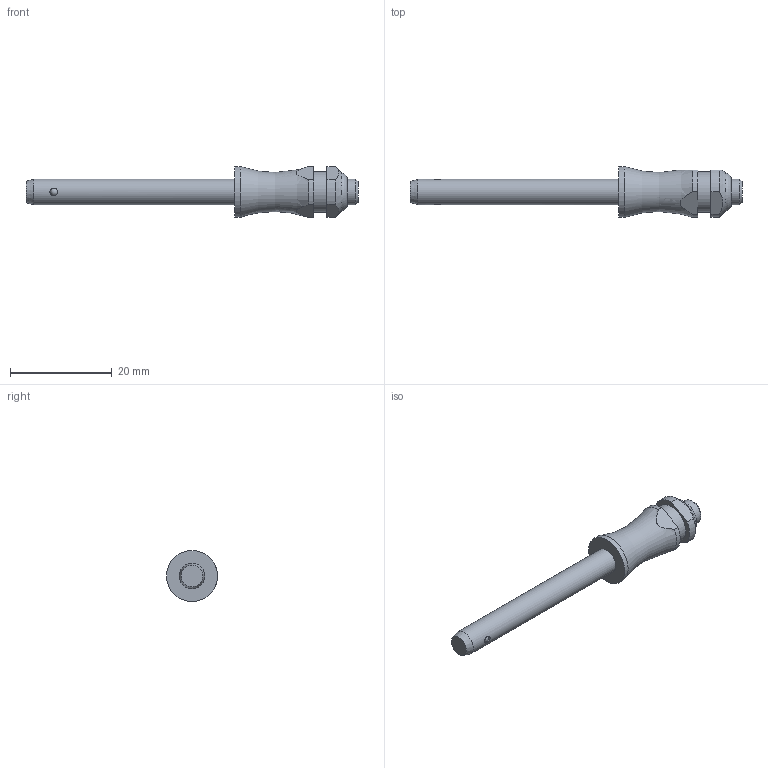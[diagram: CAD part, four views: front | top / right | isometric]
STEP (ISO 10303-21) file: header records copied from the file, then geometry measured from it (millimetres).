
FILE_DESCRIPTION( ( 'STEP AP203' ), '1' );
FILE_NAME( 'C:/Temp/Ganter_Step_05_03_2020/data/3_1/gn113_3/Stainless Steel-Ball lock pin GN 113.3-5-35 (activated).stp', '2020-03-12T08:18:11', ( 'License CC BY-ND 4.0' ), ( 'CADENAS' ), ' ', 'PARTsolutions', ' ' );
FILE_SCHEMA( ( 'CONFIG_CONTROL_DESIGN' ) );
Length unit declared in the file: millimetre
Products named in the file (1): _Stainless Steel-Ball lock pin GN 113.3-5-35 (activated)
Bounding box: 65.15 x 10 x 10 mm (x, y, z)
Volume: 2098.3 mm3; surface area: 1439.3 mm2
Topology: 1 solids, 1 shells, 31 faces, 73 edges, 46 vertices
Faces by surface type: plane 12, cylinder 12, cone 3, torus 2, sphere 2
Full cylindrical faces by diameter (mm): 1.5 x2, 5 x2, 7.9 x1, 10 x1
Entity records: 954 total; most frequent: CARTESIAN_POINT 290, DIRECTION 134, ORIENTED_EDGE 104, AXIS2_PLACEMENT_3D 58, EDGE_CURVE 52, EDGE_LOOP 48, VERTEX_POINT 40, FACE_OUTER_BOUND 39
